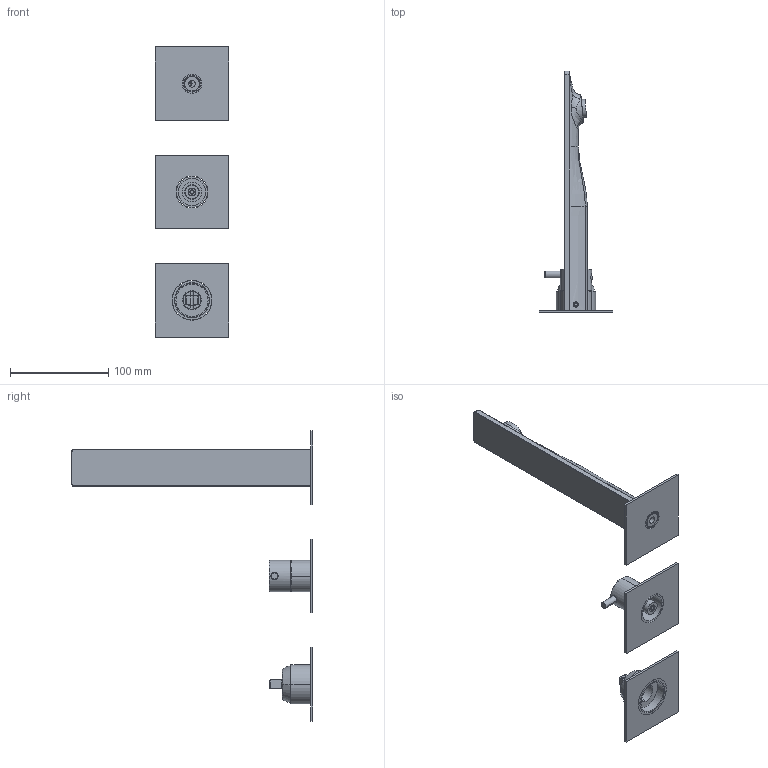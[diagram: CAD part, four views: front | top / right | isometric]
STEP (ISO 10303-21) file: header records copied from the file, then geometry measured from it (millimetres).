
FILE_DESCRIPTION((''),'2;1');
FILE_NAME('3D_SW0001','2024-10-01T11:28:05',('volponeff'),(''),'CREO PARAMETRIC BY PTC INC, 2022014','CREO PARAMETRIC BY PTC INC, 2022014','');
FILE_SCHEMA(('CONFIG_CONTROL_DESIGN'));
Products named in the file (1): 3D_SW0001
Bounding box: 75 x 245 x 295 mm (x, y, z)
Volume: 188964.5 mm3; surface area: 103486 mm2
Topology: 7 solids, 7 shells, 1136 faces, 3139 edges, 2003 vertices
Faces by surface type: cylinder 440, plane 344, cone 137, bspline 132, torus 71, sphere 8, extrusion 4
Entity records: 94394 total; most frequent: CARTESIAN_POINT 66913, ORIENTED_EDGE 6230, DIRECTION 5060, EDGE_CURVE 3115, VERTEX_POINT 2003, AXIS2_PLACEMENT_3D 1872, VECTOR 1316, LINE 1312
